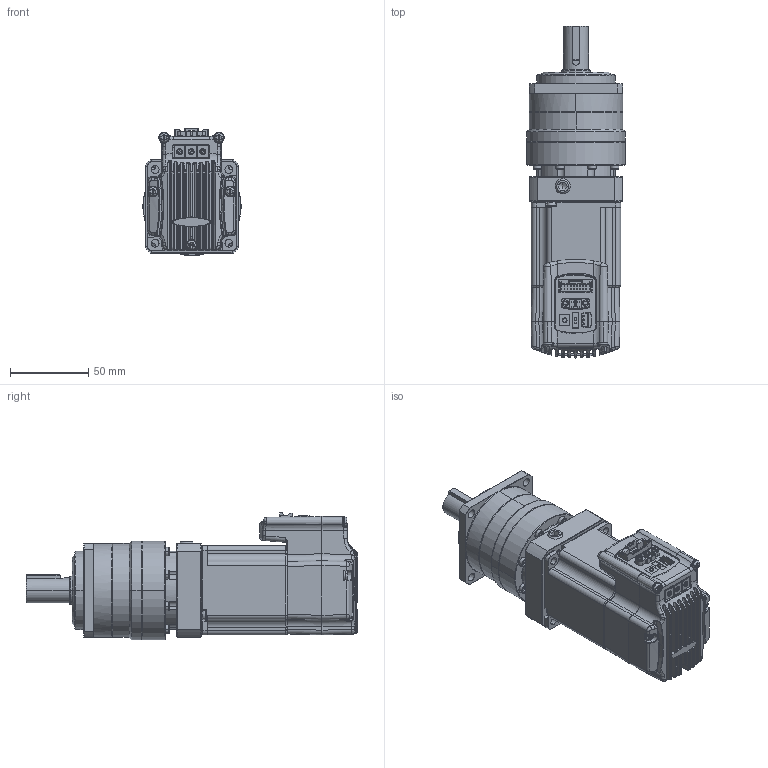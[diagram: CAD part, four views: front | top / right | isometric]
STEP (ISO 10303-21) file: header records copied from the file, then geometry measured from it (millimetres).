
FILE_DESCRIPTION (( 'STEP AP203' ), '1' );
FILE_NAME ('130416 Ezi-SERVO PG-BT-56M-PN3~10.STEP', '2013-04-17T01:16:28', ( '' ), ( '' ), 'SwSTEP 2.0', 'SolidWorks 2012', '' );
FILE_SCHEMA (( 'CONFIG_CONTROL_DESIGN' ));
Products named in the file (44): 130416 Ezi-SERVO PG-BT-56M-PN3~10; ST56 1ST; 42; 41; 40; 39; 38_4; 37_8; 36_8; 35_8; 34_8; 33_8; 32_8; 31_8; 30_8; 29_8; 28_8; 27_8; 26_8; 25_8; 24_8; 23_8; 22_8; 21_8; 20_8; 19_8; 18_8; 17_8; 16_8; 15_8; 14_8; 13_8; 12_8; 11_8; 10_8; 9_8; 8_8; 7_8; 6_8; 5_8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
Assembly tree (43 placements, depth 2):
  130416 Ezi-SERVO PG-BT-56M-PN3~10
    1_8
    2_8
    3_8
    4_8
    5_8
    6_8
    7_8
    8_8
    9_8
    10_8
    11_8
    12_8
    13_8
    14_8
    15_8
    16_8
    17_8
    18_8
    19_8
    20_8
    21_8
    22_8
    23_8
    24_8
    25_8
    26_8
    27_8
    28_8
    29_8
    30_8
    31_8
    32_8
    33_8
    34_8
    35_8
    36_8
    37_8
    38_4
    39
    40
    41
    42
    ST56 1ST
Bounding box: 63 x 212.21 x 81.43 mm (x, y, z)
Volume: 455972.8 mm3; surface area: 123365.7 mm2
Topology: 39 solids, 45 shells, 3617 faces, 9051 edges, 5535 vertices
Faces by surface type: plane 1579, cylinder 1124, bspline 669, cone 191, torus 54
Entity records: 170096 total; most frequent: CARTESIAN_POINT 87852, ORIENTED_EDGE 17816, DIRECTION 13128, EDGE_CURVE 8936, VERTEX_POINT 5535, AXIS2_PLACEMENT_3D 4414, VECTOR 4300, LINE 4300
